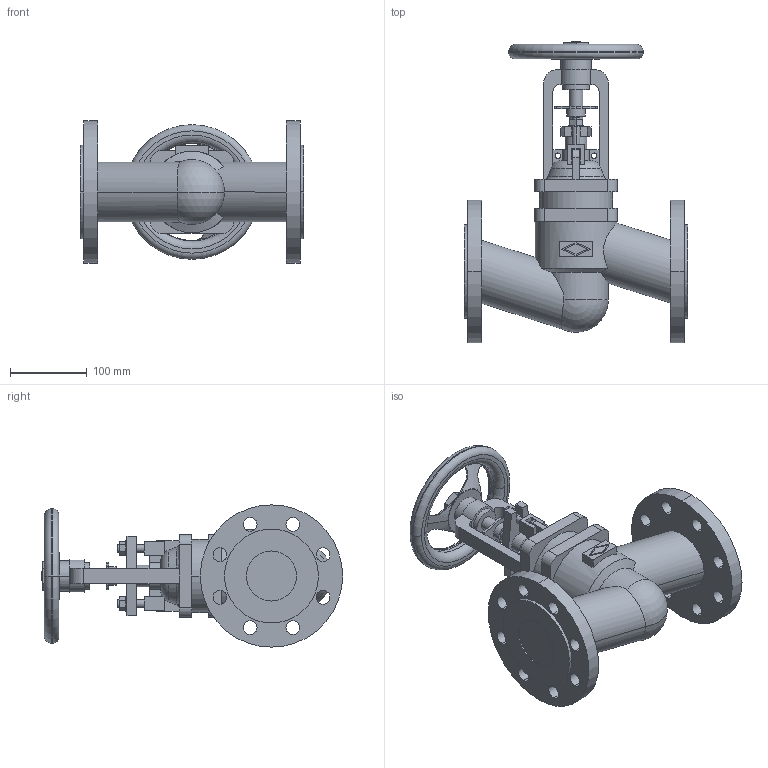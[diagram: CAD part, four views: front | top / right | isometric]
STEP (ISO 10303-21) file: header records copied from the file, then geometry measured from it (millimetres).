
FILE_DESCRIPTION(('OneSpaceDesigner STEP Export'),'2;1');
FILE_NAME('c000003730.stp','2009-06-15T12:38:00',(''),(''),'OneSpace Designer STEP processor for AP214 (Solid Model)','OneSpace Modeling 15.50B 03-Nov-2007 (C) CoCreate Software GmbH','');
FILE_SCHEMA(('AUTOMOTIVE_DESIGN { 1 0 10303 214 1 1 1 1 }'));
Length unit declared in the file: millimetre
Products named in the file (1): 1
Bounding box: 290 x 391.6 x 185 mm (x, y, z)
Volume: 3802565.6 mm3; surface area: 355601.3 mm2
Topology: 1 solids, 1 shells, 304 faces, 829 edges, 546 vertices
Faces by surface type: plane 139, cylinder 129, torus 22, cone 12, sphere 2
Entity records: 12555 total; most frequent: CARTESIAN_POINT 2783, ORIENTED_EDGE 1654, DIRECTION 1338, EDGE_CURVE 827, VERTEX_POINT 546, AXIS2_PLACEMENT_3D 461, VECTOR 416, LINE 416
